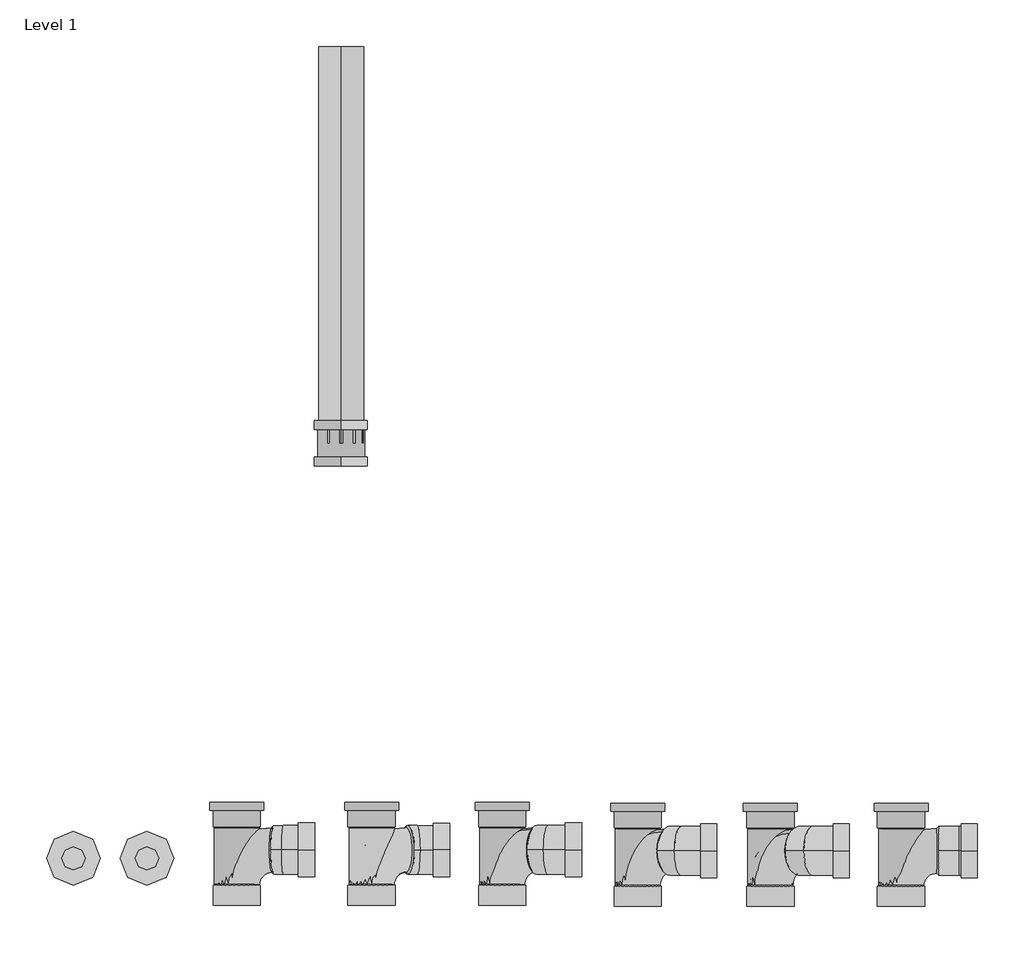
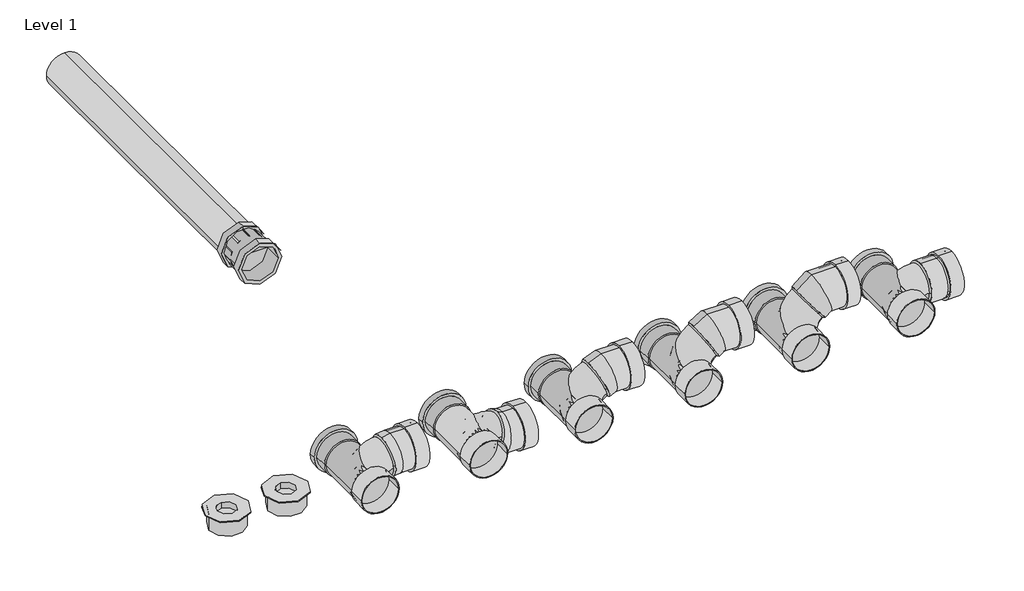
# One storey, incomplete: 9 pipe fittings, 1 pipe segment.
"""IFC4 building model written with IfcOpenShell, lengths in millimetres."""

from ifc_helpers import new_model, si_unit, point, frame, frame_2d, origin, place, context, project, spatial, circle_curve, trimmed, segment, composite_curve, outline, extrude, transform, mapped, element, save
from components import pipe_fitting_c5642f68, pipe_fitting_c38557df, pipe_fitting_3aa7dfd5, pipe_fitting_f7622124, pipe_fitting_9da17241, pipe_fitting_6d66f02b, grey_730326c9, straight_09c62ba7

model = new_model("IFC4")

# Units and contexts
model_context = context("Model", 3, world=origin())
ifc_project = project(units=[si_unit("LENGTHUNIT", "METRE", prefix="MILLI")], contexts=[model_context])

# Site, building, storey
site = spatial("IfcSite", under=ifc_project)
building = spatial("IfcBuilding", under=site)
storey = spatial("IfcBuildingStorey", under=building, Name="Level 1", Elevation=0.0)

# Pipe fittings
placement = place(None, origin())
pipe_fitting_shape = pipe_fitting_c5642f68(model_context)
element("IfcPipeFitting", 1, ObjectType="Wavin_PipeFitting_S&WSPvcBossSocketPlug : Black S/E", at=placement, inside=storey, context=model_context, shape_type="MappedRepresentation", body=[
    mapped(pipe_fitting_shape, transform((24362.9574234, -6772.6111569, 150.0), x_axis=(0.0, 0.0, 1.0), y_axis=(-1.0, 0.0, 0.0), z_axis=(0.0, -1.0, 0.0))),
])
element("IfcPipeFitting", 2, ObjectType="Wavin_PipeFitting_S&WSPvcBossSocketPlug : Grey S/E", at=placement, inside=storey, context=model_context, shape_type="MappedRepresentation", body=[
    mapped(pipe_fitting_shape, transform((24182.9574234, -6772.6111569, 150.0), x_axis=(0.0, 0.0, 1.0), y_axis=(-1.0, 0.0, 0.0), z_axis=(0.0, -1.0, 0.0))),
])
pipe_fitting_2_shape = pipe_fitting_c38557df(model_context)
element("IfcPipeFitting", 3, ObjectType="Wavin_PipeAccessory_S&WSPvcBranchWc : 8º", at=placement, inside=storey, context=model_context, shape_type="MappedRepresentation", body=[
    mapped(pipe_fitting_2_shape, transform((24582.9603104, -6751.9414457, 150.0), x_axis=(0.0, -1.0, 0.0), y_axis=(1.0, 0.0, 0.0), z_axis=(0.0, 0.0, 1.0))),
])
pipe_fitting_3_shape = pipe_fitting_3aa7dfd5(model_context)
element("IfcPipeFitting", 4, ObjectType="Wavin_PipeAccessory_S&WSPvcBranchWc : 16º", at=placement, inside=storey, context=model_context, shape_type="MappedRepresentation", body=[
    mapped(pipe_fitting_3_shape, transform((24912.9603104, -6751.9414457, 149.0), x_axis=(0.0, 1.0, 0.0), y_axis=(1.0, 0.0, 0.0), z_axis=(0.0, 0.0, -1.0))),
])
pipe_fitting_4_shape = pipe_fitting_f7622124(model_context)
element("IfcPipeFitting", 5, ObjectType="Wavin_PipeAccessory_S&WSPvcBranchWc : 23º", at=placement, inside=storey, context=model_context, shape_type="MappedRepresentation", body=[
    mapped(pipe_fitting_4_shape, transform((25232.9603104, -6751.9414457, 150.0), x_axis=(0.0, -1.0, 0.0), y_axis=(1.0, 0.0, 0.0), z_axis=(0.0, 0.0, 1.0))),
])
pipe_fitting_5_shape = pipe_fitting_9da17241(model_context)
element("IfcPipeFitting", 6, ObjectType="Wavin_PipeAccessory_S&WSPvcBranchWc : 31º", at=placement, inside=storey, context=model_context, shape_type="MappedRepresentation", body=[
    mapped(pipe_fitting_5_shape, transform((25564.8930628, -6754.1780408, 150.0), x_axis=(0.0, -1.0, 0.0), y_axis=(1.0, 0.0, 0.0), z_axis=(0.0, 0.0, 1.0))),
])
pipe_fitting_6_shape = pipe_fitting_6d66f02b(model_context)
element("IfcPipeFitting", 7, ObjectType="Wavin_PipeAccessory_S&WSPvcBranchWc : 38º", at=placement, inside=storey, context=model_context, shape_type="MappedRepresentation", body=[
    mapped(pipe_fitting_6_shape, transform((25889.8930628, -6754.1780408, 150.0), x_axis=(0.0, -1.0, 0.0), y_axis=(1.0, 0.0, 0.0), z_axis=(0.0, 0.0, 1.0))),
])
grey_shape = grey_730326c9(model_context)
element("IfcPipeFitting", 8, ObjectType="Wavin_PipeFitting_S&WSPvcSDoubleSocket : Grey", at=placement, inside=storey, context=model_context, shape_type="MappedRepresentation", body=[
    mapped(grey_shape, transform((24838.9725957, -5754.1329024, 150.0), x_axis=(0.0, -1.0, 0.0), y_axis=(1.0, 0.0, 0.0), z_axis=(0.0, 0.0, 1.0))),
])
straight_shape = straight_09c62ba7(model_context)
element("IfcPipeFitting", 9, ObjectType="Wavin_PipeAccessory_S&WSPvcBranchWc : Straight", at=placement, inside=storey, context=model_context, shape_type="MappedRepresentation", body=[
    mapped(straight_shape, transform((26209.8930628, -6754.1780408, 150.0), x_axis=(0.0, -1.0, 0.0), y_axis=(1.0, 0.0, 0.0), z_axis=(0.0, 0.0, 1.0))),
])

# Pipe segment
element("IfcPipeSegment", 10, ObjectType="Wavin_Pipe_Soil", at=placement, inside=storey, context=model_context, shape_type="SweptSolid", body=[
    extrude(outline(composite_curve([segment(trimmed(circle_curve(frame_2d((150.0, 24838.9725957)), 55.0), [point((150.0, 24893.9725957))], [point((205.0, 24838.9725957))], False, "CARTESIAN"), True, "CONTINUOUS"), segment(trimmed(circle_curve(frame_2d((150.0, 24838.9725957)), 55.0), [point((205.0, 24838.9725957))], [point((150.0, 24783.9725957))], False, "CARTESIAN"), True, "CONTINUOUS"), segment(trimmed(circle_curve(frame_2d((150.0, 24838.9725957)), 55.0), [point((150.0, 24783.9725957))], [point((95.0, 24838.9725957))], False, "CARTESIAN"), True, "CONTINUOUS"), segment(trimmed(circle_curve(frame_2d((150.0, 24838.9725957)), 55.0), [point((95.0, 24838.9725957))], [point((150.0, 24893.9725957))], False, "CARTESIAN"), True, "CONTINUOUS")], self_intersect=False)), frame((0.0, -5754.1329024, 0.0), z_axis=(0.0, 1.0, 0.0), x_axis=(0.0, 0.0, 1.0)), (0.0, 0.0, 1.0), 971.0),
])

save(model, "model.ifc")
